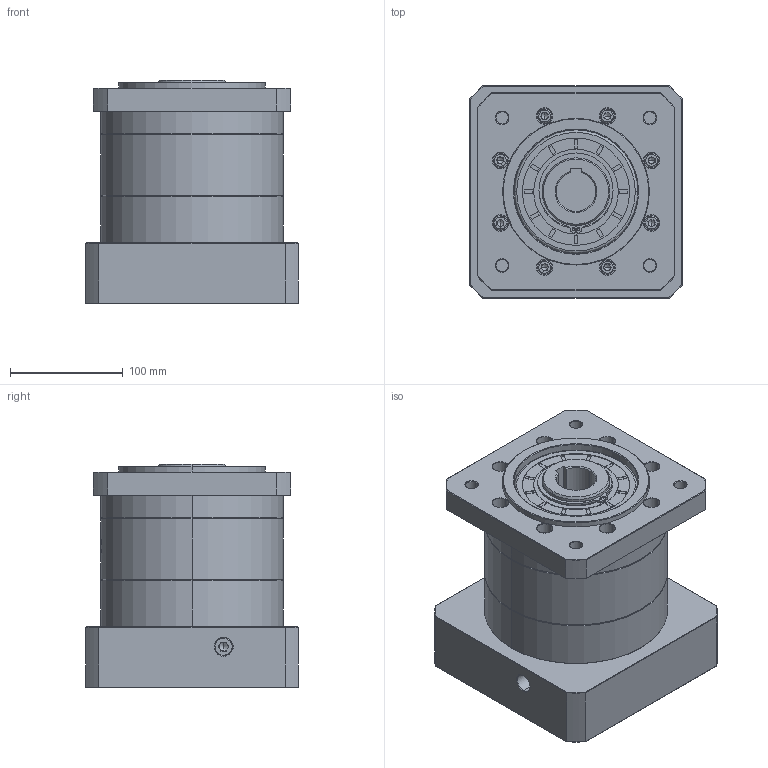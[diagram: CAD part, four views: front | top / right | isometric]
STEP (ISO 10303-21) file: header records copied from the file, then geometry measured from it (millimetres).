
FILE_DESCRIPTION (( 'STEP AP214' ), '1' );
FILE_NAME ('ZF160-K35-L1-38-180-215-M12.step', '2023-03-21T04:32:10', ( '' ), ( '' ), 'SwSTEP 2.0', 'SolidWorks 2016', '' );
FILE_SCHEMA (( 'AUTOMOTIVE_DESIGN' ));
Length unit declared in the file: millimetre
Products named in the file (1): ZF160-K35-L1-38-180-215-M12
Bounding box: 188 x 188 x 198.2 mm (x, y, z)
Volume: 4318756 mm3; surface area: 349767.8 mm2
Topology: 6 solids, 6 shells, 1559 faces, 4062 edges, 2606 vertices
Faces by surface type: plane 637, cylinder 371, cone 320, bspline 211, torus 20
Entity records: 86671 total; most frequent: CARTESIAN_POINT 33199, ORIENTED_EDGE 8068, DIRECTION 6906, EDGE_CURVE 4034, VERTEX_POINT 2606, AXIS2_PLACEMENT_3D 2395, VECTOR 2116, LINE 2116
